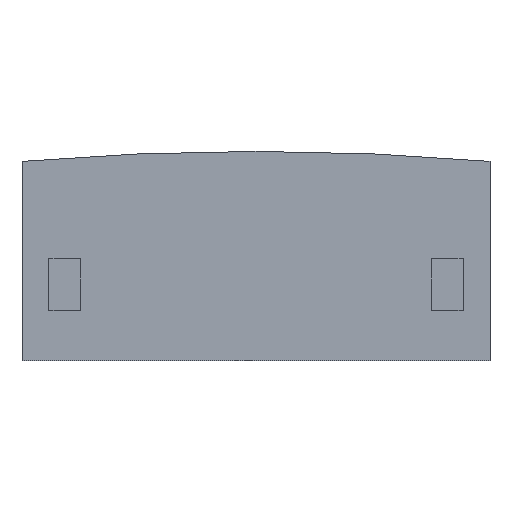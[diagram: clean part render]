
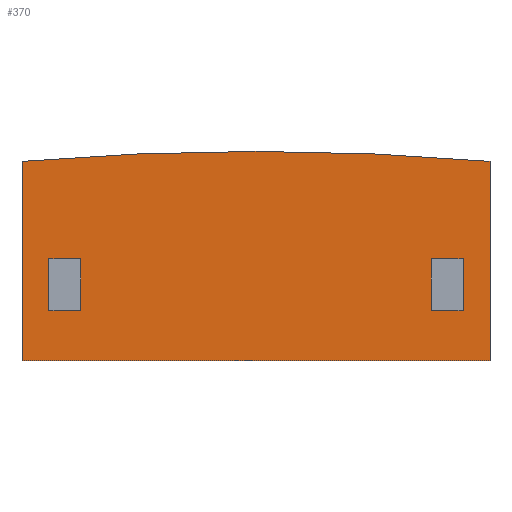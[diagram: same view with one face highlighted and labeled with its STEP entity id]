
A CAD part, top view. The second image highlights one B-rep face of the part: STEP entity #370.
In plain terms, the highlighted planar face has unit normal (0, 0, 1).
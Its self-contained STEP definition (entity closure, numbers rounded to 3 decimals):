
#4 = VECTOR ( 'NONE', #466, 1000. ) ;
#8 = EDGE_CURVE ( 'NONE', #148, #262, #198, .T. ) ;
#20 = DIRECTION ( 'NONE',  ( 0., 0., -1. ) ) ;
#23 = DIRECTION ( 'NONE',  ( -1., 0., 0. ) ) ;
#26 = FACE_BOUND ( 'NONE', #126, .T. ) ;
#27 = DIRECTION ( 'NONE',  ( 1., 0., 0. ) ) ;
#29 = VERTEX_POINT ( 'NONE', #487 ) ;
#34 = CARTESIAN_POINT ( 'NONE',  ( -11.75, 0., 2. ) ) ;
#35 = ORIENTED_EDGE ( 'NONE', *, *, #244, .F. ) ;
#42 = VERTEX_POINT ( 'NONE', #221 ) ;
#51 = VECTOR ( 'NONE', #413, 1000. ) ;
#54 = CARTESIAN_POINT ( 'NONE',  ( -10.4, 5.1, 2. ) ) ;
#59 = ORIENTED_EDGE ( 'NONE', *, *, #436, .T. ) ;
#61 = LINE ( 'NONE', #169, #248 ) ;
#69 = LINE ( 'NONE', #357, #389 ) ;
#74 = EDGE_CURVE ( 'NONE', #449, #148, #61, .T. ) ;
#85 = CARTESIAN_POINT ( 'NONE',  ( 8.8, 2.5, 2. ) ) ;
#89 = AXIS2_PLACEMENT_3D ( 'NONE', #368, #409, #23 ) ;
#100 = DIRECTION ( 'NONE',  ( -1., 0., 0. ) ) ;
#106 = ORIENTED_EDGE ( 'NONE', *, *, #269, .T. ) ;
#117 = LINE ( 'NONE', #299, #51 ) ;
#125 = VERTEX_POINT ( 'NONE', #302 ) ;
#126 = EDGE_LOOP ( 'NONE', ( #429, #201, #478, #232 ) ) ;
#138 = DIRECTION ( 'NONE',  ( 0., -1., 0. ) ) ;
#143 = CARTESIAN_POINT ( 'NONE',  ( -11.75, 0., 2. ) ) ;
#147 = CARTESIAN_POINT ( 'NONE',  ( 10.4, 2.5, 2. ) ) ;
#148 = VERTEX_POINT ( 'NONE', #168 ) ;
#165 = LINE ( 'NONE', #316, #4 ) ;
#168 = CARTESIAN_POINT ( 'NONE',  ( -10.4, 2.5, 2. ) ) ;
#169 = CARTESIAN_POINT ( 'NONE',  ( -10.4, 5.1, 2. ) ) ;
#171 = LINE ( 'NONE', #392, #305 ) ;
#174 = VECTOR ( 'NONE', #423, 1000. ) ;
#177 = DIRECTION ( 'NONE',  ( -1., 0., 0. ) ) ;
#183 = CARTESIAN_POINT ( 'NONE',  ( 8.8, 5.1, 2. ) ) ;
#184 = CARTESIAN_POINT ( 'NONE',  ( 11.75, 0., 2. ) ) ;
#187 = CARTESIAN_POINT ( 'NONE',  ( -8.8, 2.5, 2. ) ) ;
#198 = LINE ( 'NONE', #308, #351 ) ;
#201 = ORIENTED_EDGE ( 'NONE', *, *, #331, .F. ) ;
#204 = EDGE_CURVE ( 'NONE', #349, #384, #428, .T. ) ;
#211 = CIRCLE ( 'NONE', #89, 138.313 ) ;
#214 = CARTESIAN_POINT ( 'NONE',  ( 8.8, 2.5, 2. ) ) ;
#215 = EDGE_CURVE ( 'NONE', #262, #29, #165, .T. ) ;
#218 = AXIS2_PLACEMENT_3D ( 'NONE', #443, #20, #100 ) ;
#221 = CARTESIAN_POINT ( 'NONE',  ( -11.75, 0., 2. ) ) ;
#224 = EDGE_LOOP ( 'NONE', ( #418, #333, #106, #59 ) ) ;
#232 = ORIENTED_EDGE ( 'NONE', *, *, #8, .F. ) ;
#238 = EDGE_CURVE ( 'NONE', #314, #125, #211, .T. ) ;
#239 = DIRECTION ( 'NONE',  ( 0., 1., 0. ) ) ;
#240 = CARTESIAN_POINT ( 'NONE',  ( 8.8, 5.1, 2. ) ) ;
#241 = VERTEX_POINT ( 'NONE', #358 ) ;
#244 = EDGE_CURVE ( 'NONE', #384, #337, #441, .T. ) ;
#248 = VECTOR ( 'NONE', #318, 1000. ) ;
#262 = VERTEX_POINT ( 'NONE', #187 ) ;
#264 = EDGE_CURVE ( 'NONE', #125, #42, #402, .T. ) ;
#266 = LINE ( 'NONE', #296, #174 ) ;
#268 = VERTEX_POINT ( 'NONE', #184 ) ;
#269 = EDGE_CURVE ( 'NONE', #42, #268, #334, .T. ) ;
#283 = VECTOR ( 'NONE', #397, 1000. ) ;
#296 = CARTESIAN_POINT ( 'NONE',  ( 11.75, 0., 2. ) ) ;
#299 = CARTESIAN_POINT ( 'NONE',  ( 8.8, 5.1, 2. ) ) ;
#302 = CARTESIAN_POINT ( 'NONE',  ( -11.75, 10., 2. ) ) ;
#303 = DIRECTION ( 'NONE',  ( 1., 0., 0. ) ) ;
#305 = VECTOR ( 'NONE', #239, 1000. ) ;
#308 = CARTESIAN_POINT ( 'NONE',  ( -10.4, 2.5, 2. ) ) ;
#314 = VERTEX_POINT ( 'NONE', #448 ) ;
#316 = CARTESIAN_POINT ( 'NONE',  ( -8.8, 5.1, 2. ) ) ;
#318 = DIRECTION ( 'NONE',  ( 0., -1., 0. ) ) ;
#329 = FACE_BOUND ( 'NONE', #446, .T. ) ;
#331 = EDGE_CURVE ( 'NONE', #29, #449, #69, .T. ) ;
#333 = ORIENTED_EDGE ( 'NONE', *, *, #264, .T. ) ;
#334 = LINE ( 'NONE', #143, #439 ) ;
#336 = VECTOR ( 'NONE', #27, 1000. ) ;
#337 = VERTEX_POINT ( 'NONE', #147 ) ;
#349 = VERTEX_POINT ( 'NONE', #183 ) ;
#351 = VECTOR ( 'NONE', #303, 1000. ) ;
#357 = CARTESIAN_POINT ( 'NONE',  ( -10.4, 5.1, 2. ) ) ;
#358 = CARTESIAN_POINT ( 'NONE',  ( 10.4, 5.1, 2. ) ) ;
#361 = VECTOR ( 'NONE', #138, 1000. ) ;
#368 = CARTESIAN_POINT ( 'NONE',  ( 0., -127.813, 2. ) ) ;
#370 = ADVANCED_FACE ( 'NONE', ( #26, #472, #329 ), #401, .F. ) ;
#384 = VERTEX_POINT ( 'NONE', #85 ) ;
#389 = VECTOR ( 'NONE', #177, 1000. ) ;
#392 = CARTESIAN_POINT ( 'NONE',  ( 10.4, 5.1, 2. ) ) ;
#397 = DIRECTION ( 'NONE',  ( 0., -1., 0. ) ) ;
#401 = PLANE ( 'NONE',  #218 ) ;
#402 = LINE ( 'NONE', #34, #361 ) ;
#405 = ORIENTED_EDGE ( 'NONE', *, *, #465, .F. ) ;
#409 = DIRECTION ( 'NONE',  ( 0., 0., 1. ) ) ;
#413 = DIRECTION ( 'NONE',  ( -1., 0., 0. ) ) ;
#414 = ORIENTED_EDGE ( 'NONE', *, *, #204, .F. ) ;
#416 = EDGE_CURVE ( 'NONE', #241, #349, #117, .T. ) ;
#418 = ORIENTED_EDGE ( 'NONE', *, *, #238, .T. ) ;
#423 = DIRECTION ( 'NONE',  ( 0., 1., 0. ) ) ;
#428 = LINE ( 'NONE', #240, #283 ) ;
#429 = ORIENTED_EDGE ( 'NONE', *, *, #74, .F. ) ;
#436 = EDGE_CURVE ( 'NONE', #268, #314, #266, .T. ) ;
#438 = DIRECTION ( 'NONE',  ( 1., 0., 0. ) ) ;
#439 = VECTOR ( 'NONE', #438, 1000. ) ;
#441 = LINE ( 'NONE', #214, #336 ) ;
#443 = CARTESIAN_POINT ( 'NONE',  ( 0., -127.813, 2. ) ) ;
#446 = EDGE_LOOP ( 'NONE', ( #414, #488, #405, #35 ) ) ;
#448 = CARTESIAN_POINT ( 'NONE',  ( 11.75, 10., 2. ) ) ;
#449 = VERTEX_POINT ( 'NONE', #54 ) ;
#465 = EDGE_CURVE ( 'NONE', #337, #241, #171, .T. ) ;
#466 = DIRECTION ( 'NONE',  ( 0., 1., 0. ) ) ;
#472 = FACE_OUTER_BOUND ( 'NONE', #224, .T. ) ;
#478 = ORIENTED_EDGE ( 'NONE', *, *, #215, .F. ) ;
#487 = CARTESIAN_POINT ( 'NONE',  ( -8.8, 5.1, 2. ) ) ;
#488 = ORIENTED_EDGE ( 'NONE', *, *, #416, .F. ) ;
